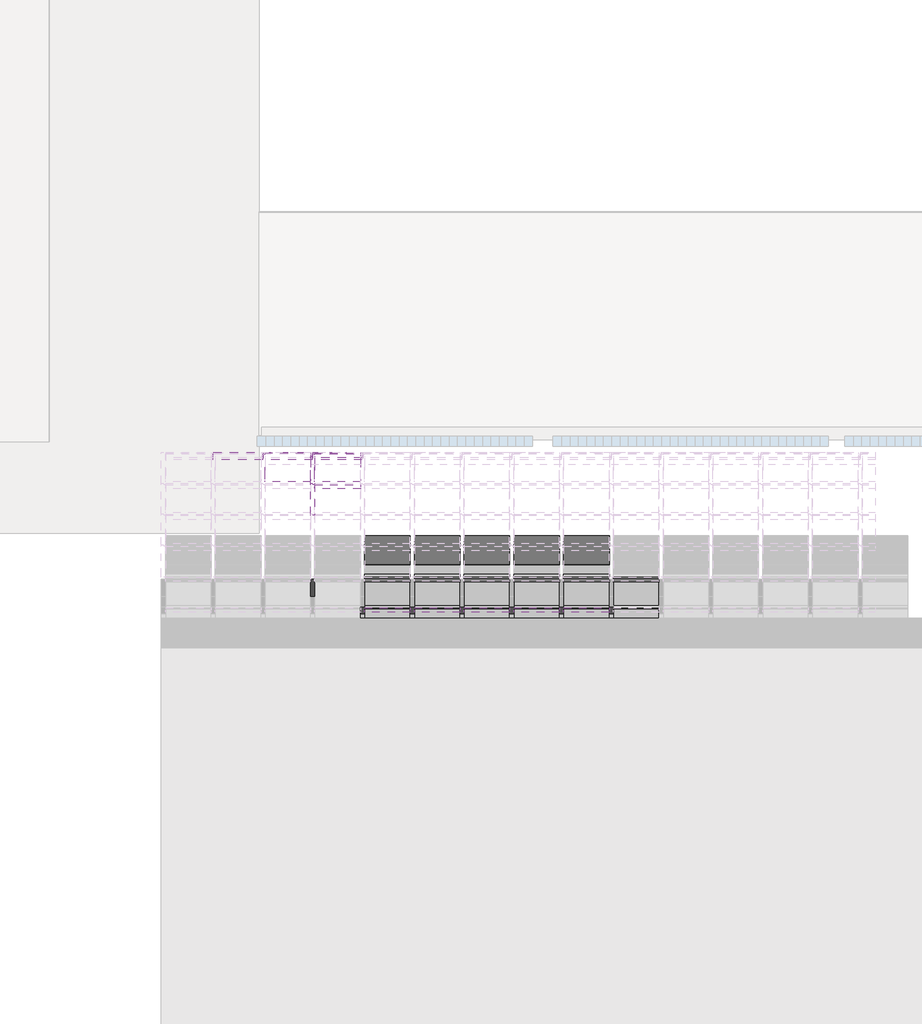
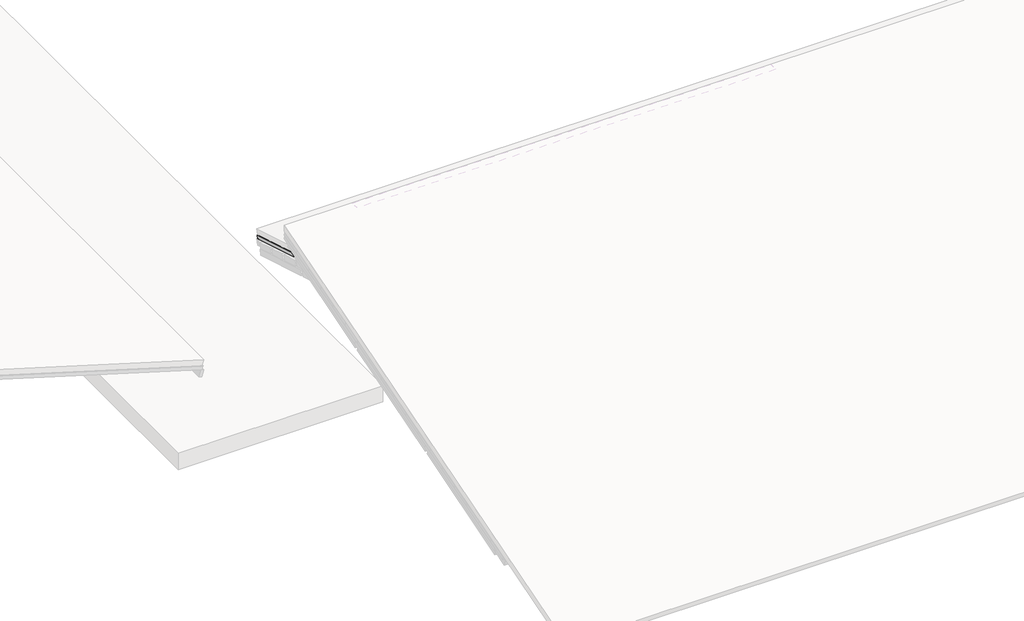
# One storey, part 13 of 57: 85 members, 37 plates.
"""IFC4 building model written with IfcOpenShell, lengths in millimetres."""

from ifc_helpers import new_model, si_unit, origin, place, context, project, spatial, transform, mapped, element, save
from components import rectangular_mullion_4c4137b9, rectangular_mullion_59984080, rectangular_mullion_2d2423ea, rectangular_mullion_3ac3718c, rectangular_mullion_caibro_df98490b, rectangular_mullion_caibro_e4384bba, rectangular_mullion_caibro_0993a3cf, rectangular_mullion_caibro_9bd7bc61, rectangular_mullion_caibro_650698a1, rectangular_mullion_caibro_334ef1ce, empty_system_panel_vazio_178faf58, empty_system_panel_vazio_2c78850d

model = new_model("IFC4")

# Units and contexts
model_context = context("Model", 3, world=origin())
ifc_project = project(units=[si_unit("LENGTHUNIT", "METRE", prefix="MILLI")], contexts=[model_context])

# Site, building, storey
site = spatial("IfcSite", under=ifc_project)
building = spatial("IfcBuilding", under=site)
storey = spatial("IfcBuildingStorey", under=building, Name="Nível 2", Elevation=4100.0)

# Members
placement = place(None, origin())
rectangular_mullion_shape = rectangular_mullion_4c4137b9(model_context)
element("IfcMember", 1, ObjectType="Rectangular Mullion : Ripa", at=placement, inside=storey, context=model_context, shape_type="MappedRepresentation", body=[
    mapped(rectangular_mullion_shape, transform((3542.8449214, 15566.1284427, 5819.8877114), x_axis=(0.0, 0.9578262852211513, 0.2873478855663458), y_axis=(0.0, 0.2873478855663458, -0.9578262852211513), z_axis=(-1.0, 0.0, 0.0))),
])
rectangular_mullion_2_shape = rectangular_mullion_59984080(model_context)
element("IfcMember", 2, ObjectType="Rectangular Mullion : Ripa", at=placement, inside=storey, context=model_context, shape_type="MappedRepresentation", body=[
    mapped(rectangular_mullion_2_shape, transform((4164.8996779, 12234.5331147, 4820.409113), x_axis=(0.0, 0.9578262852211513, 0.2873478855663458), y_axis=(0.0, 0.2873478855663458, -0.9578262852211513), z_axis=(-1.0, 0.0, 0.0))),
])
element("IfcMember", 3, ObjectType="Rectangular Mullion : Ripa", at=placement, inside=storey, context=model_context, shape_type="MappedRepresentation", body=[
    mapped(rectangular_mullion_2_shape, transform((4761.9544343, 12234.5331147, 4820.409113), x_axis=(0.0, 0.9578262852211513, 0.2873478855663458), y_axis=(0.0, 0.2873478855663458, -0.9578262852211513), z_axis=(-1.0, 0.0, 0.0))),
])
element("IfcMember", 4, ObjectType="Rectangular Mullion : Ripa", at=placement, inside=storey, context=model_context, shape_type="MappedRepresentation", body=[
    mapped(rectangular_mullion_2_shape, transform((5359.0091907, 12234.5331147, 4820.409113), x_axis=(0.0, 0.9578262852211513, 0.2873478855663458), y_axis=(0.0, 0.2873478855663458, -0.9578262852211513), z_axis=(-1.0, 0.0, 0.0))),
])
element("IfcMember", 5, ObjectType="Rectangular Mullion : Ripa", at=placement, inside=storey, context=model_context, shape_type="MappedRepresentation", body=[
    mapped(rectangular_mullion_2_shape, transform((5956.0639471, 12234.5331147, 4820.409113), x_axis=(0.0, 0.9578262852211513, 0.2873478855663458), y_axis=(0.0, 0.2873478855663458, -0.9578262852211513), z_axis=(-1.0, 0.0, 0.0))),
])
element("IfcMember", 6, ObjectType="Rectangular Mullion : Ripa", at=placement, inside=storey, context=model_context, shape_type="MappedRepresentation", body=[
    mapped(rectangular_mullion_2_shape, transform((6553.1187036, 12234.5331147, 4820.409113), x_axis=(0.0, 0.9578262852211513, 0.2873478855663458), y_axis=(0.0, 0.2873478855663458, -0.9578262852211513), z_axis=(-1.0, 0.0, 0.0))),
])
element("IfcMember", 7, ObjectType="Rectangular Mullion : Ripa", at=placement, inside=storey, context=model_context, shape_type="MappedRepresentation", body=[
    mapped(rectangular_mullion_2_shape, transform((7150.17346, 12234.5331147, 4820.409113), x_axis=(0.0, 0.9578262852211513, 0.2873478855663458), y_axis=(0.0, 0.2873478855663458, -0.9578262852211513), z_axis=(-1.0, 0.0, 0.0))),
])
element("IfcMember", 8, ObjectType="Rectangular Mullion : Ripa", at=placement, inside=storey, context=model_context, shape_type="MappedRepresentation", body=[
    mapped(rectangular_mullion_2_shape, transform((7747.2282164, 12234.5331147, 4820.409113), x_axis=(0.0, 0.9578262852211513, 0.2873478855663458), y_axis=(0.0, 0.2873478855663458, -0.9578262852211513), z_axis=(-1.0, 0.0, 0.0))),
])
element("IfcMember", 9, ObjectType="Rectangular Mullion : Ripa", at=placement, inside=storey, context=model_context, shape_type="MappedRepresentation", body=[
    mapped(rectangular_mullion_2_shape, transform((4164.8996779, 12604.7103734, 4931.4622906), x_axis=(0.0, 0.9578262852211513, 0.2873478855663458), y_axis=(0.0, 0.2873478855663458, -0.9578262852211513), z_axis=(-1.0, 0.0, 0.0))),
])
element("IfcMember", 10, ObjectType="Rectangular Mullion : Ripa", at=placement, inside=storey, context=model_context, shape_type="MappedRepresentation", body=[
    mapped(rectangular_mullion_2_shape, transform((4761.9544343, 12604.7103734, 4931.4622906), x_axis=(0.0, 0.9578262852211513, 0.2873478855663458), y_axis=(0.0, 0.2873478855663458, -0.9578262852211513), z_axis=(-1.0, 0.0, 0.0))),
])
element("IfcMember", 11, ObjectType="Rectangular Mullion : Ripa", at=placement, inside=storey, context=model_context, shape_type="MappedRepresentation", body=[
    mapped(rectangular_mullion_2_shape, transform((5359.0091907, 12604.7103734, 4931.4622906), x_axis=(0.0, 0.9578262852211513, 0.2873478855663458), y_axis=(0.0, 0.2873478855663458, -0.9578262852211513), z_axis=(-1.0, 0.0, 0.0))),
])
element("IfcMember", 12, ObjectType="Rectangular Mullion : Ripa", at=placement, inside=storey, context=model_context, shape_type="MappedRepresentation", body=[
    mapped(rectangular_mullion_2_shape, transform((5956.0639471, 12604.7103734, 4931.4622906), x_axis=(0.0, 0.9578262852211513, 0.2873478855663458), y_axis=(0.0, 0.2873478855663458, -0.9578262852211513), z_axis=(-1.0, 0.0, 0.0))),
])
element("IfcMember", 13, ObjectType="Rectangular Mullion : Ripa", at=placement, inside=storey, context=model_context, shape_type="MappedRepresentation", body=[
    mapped(rectangular_mullion_2_shape, transform((6553.1187036, 12604.7103734, 4931.4622906), x_axis=(0.0, 0.9578262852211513, 0.2873478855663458), y_axis=(0.0, 0.2873478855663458, -0.9578262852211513), z_axis=(-1.0, 0.0, 0.0))),
])
element("IfcMember", 14, ObjectType="Rectangular Mullion : Ripa", at=placement, inside=storey, context=model_context, shape_type="MappedRepresentation", body=[
    mapped(rectangular_mullion_2_shape, transform((7150.17346, 12604.7103734, 4931.4622906), x_axis=(0.0, 0.9578262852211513, 0.2873478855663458), y_axis=(0.0, 0.2873478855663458, -0.9578262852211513), z_axis=(-1.0, 0.0, 0.0))),
])
element("IfcMember", 15, ObjectType="Rectangular Mullion : Ripa", at=placement, inside=storey, context=model_context, shape_type="MappedRepresentation", body=[
    mapped(rectangular_mullion_2_shape, transform((7747.2282164, 12604.7103734, 4931.4622906), x_axis=(0.0, 0.9578262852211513, 0.2873478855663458), y_axis=(0.0, 0.2873478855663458, -0.9578262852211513), z_axis=(-1.0, 0.0, 0.0))),
])
element("IfcMember", 16, ObjectType="Rectangular Mullion : Ripa", at=placement, inside=storey, context=model_context, shape_type="MappedRepresentation", body=[
    mapped(rectangular_mullion_2_shape, transform((4164.8996779, 12974.8876321, 5042.5154682), x_axis=(0.0, 0.9578262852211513, 0.2873478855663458), y_axis=(0.0, 0.2873478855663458, -0.9578262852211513), z_axis=(-1.0, 0.0, 0.0))),
])
element("IfcMember", 17, ObjectType="Rectangular Mullion : Ripa", at=placement, inside=storey, context=model_context, shape_type="MappedRepresentation", body=[
    mapped(rectangular_mullion_2_shape, transform((4761.9544343, 12974.8876321, 5042.5154682), x_axis=(0.0, 0.9578262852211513, 0.2873478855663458), y_axis=(0.0, 0.2873478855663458, -0.9578262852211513), z_axis=(-1.0, 0.0, 0.0))),
])
element("IfcMember", 18, ObjectType="Rectangular Mullion : Ripa", at=placement, inside=storey, context=model_context, shape_type="MappedRepresentation", body=[
    mapped(rectangular_mullion_2_shape, transform((5359.0091907, 12974.8876321, 5042.5154682), x_axis=(0.0, 0.9578262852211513, 0.2873478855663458), y_axis=(0.0, 0.2873478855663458, -0.9578262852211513), z_axis=(-1.0, 0.0, 0.0))),
])
element("IfcMember", 19, ObjectType="Rectangular Mullion : Ripa", at=placement, inside=storey, context=model_context, shape_type="MappedRepresentation", body=[
    mapped(rectangular_mullion_2_shape, transform((5956.0639471, 12974.8876321, 5042.5154682), x_axis=(0.0, 0.9578262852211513, 0.2873478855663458), y_axis=(0.0, 0.2873478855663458, -0.9578262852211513), z_axis=(-1.0, 0.0, 0.0))),
])
element("IfcMember", 20, ObjectType="Rectangular Mullion : Ripa", at=placement, inside=storey, context=model_context, shape_type="MappedRepresentation", body=[
    mapped(rectangular_mullion_2_shape, transform((6553.1187036, 12974.8876321, 5042.5154682), x_axis=(0.0, 0.9578262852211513, 0.2873478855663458), y_axis=(0.0, 0.2873478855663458, -0.9578262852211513), z_axis=(-1.0, 0.0, 0.0))),
])
element("IfcMember", 21, ObjectType="Rectangular Mullion : Ripa", at=placement, inside=storey, context=model_context, shape_type="MappedRepresentation", body=[
    mapped(rectangular_mullion_2_shape, transform((7150.17346, 12974.8876321, 5042.5154682), x_axis=(0.0, 0.9578262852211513, 0.2873478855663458), y_axis=(0.0, 0.2873478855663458, -0.9578262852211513), z_axis=(-1.0, 0.0, 0.0))),
])
element("IfcMember", 22, ObjectType="Rectangular Mullion : Ripa", at=placement, inside=storey, context=model_context, shape_type="MappedRepresentation", body=[
    mapped(rectangular_mullion_2_shape, transform((7747.2282164, 12974.8876321, 5042.5154682), x_axis=(0.0, 0.9578262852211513, 0.2873478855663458), y_axis=(0.0, 0.2873478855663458, -0.9578262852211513), z_axis=(-1.0, 0.0, 0.0))),
])
element("IfcMember", 23, ObjectType="Rectangular Mullion : Ripa", at=placement, inside=storey, context=model_context, shape_type="MappedRepresentation", body=[
    mapped(rectangular_mullion_2_shape, transform((4164.8996779, 13345.0648907, 5153.5686458), x_axis=(0.0, 0.9578262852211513, 0.2873478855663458), y_axis=(0.0, 0.2873478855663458, -0.9578262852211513), z_axis=(-1.0, 0.0, 0.0))),
])
element("IfcMember", 24, ObjectType="Rectangular Mullion : Ripa", at=placement, inside=storey, context=model_context, shape_type="MappedRepresentation", body=[
    mapped(rectangular_mullion_2_shape, transform((4761.9544343, 13345.0648907, 5153.5686458), x_axis=(0.0, 0.9578262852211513, 0.2873478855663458), y_axis=(0.0, 0.2873478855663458, -0.9578262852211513), z_axis=(-1.0, 0.0, 0.0))),
])
element("IfcMember", 25, ObjectType="Rectangular Mullion : Ripa", at=placement, inside=storey, context=model_context, shape_type="MappedRepresentation", body=[
    mapped(rectangular_mullion_2_shape, transform((5359.0091907, 13345.0648907, 5153.5686458), x_axis=(0.0, 0.9578262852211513, 0.2873478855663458), y_axis=(0.0, 0.2873478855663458, -0.9578262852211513), z_axis=(-1.0, 0.0, 0.0))),
])
element("IfcMember", 26, ObjectType="Rectangular Mullion : Ripa", at=placement, inside=storey, context=model_context, shape_type="MappedRepresentation", body=[
    mapped(rectangular_mullion_2_shape, transform((5956.0639471, 13345.0648907, 5153.5686458), x_axis=(0.0, 0.9578262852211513, 0.2873478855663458), y_axis=(0.0, 0.2873478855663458, -0.9578262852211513), z_axis=(-1.0, 0.0, 0.0))),
])
element("IfcMember", 27, ObjectType="Rectangular Mullion : Ripa", at=placement, inside=storey, context=model_context, shape_type="MappedRepresentation", body=[
    mapped(rectangular_mullion_2_shape, transform((6553.1187036, 13345.0648907, 5153.5686458), x_axis=(0.0, 0.9578262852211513, 0.2873478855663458), y_axis=(0.0, 0.2873478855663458, -0.9578262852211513), z_axis=(-1.0, 0.0, 0.0))),
])
element("IfcMember", 28, ObjectType="Rectangular Mullion : Ripa", at=placement, inside=storey, context=model_context, shape_type="MappedRepresentation", body=[
    mapped(rectangular_mullion_2_shape, transform((4164.8996779, 13715.2421494, 5264.6218234), x_axis=(0.0, 0.9578262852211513, 0.2873478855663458), y_axis=(0.0, 0.2873478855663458, -0.9578262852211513), z_axis=(-1.0, 0.0, 0.0))),
])
element("IfcMember", 29, ObjectType="Rectangular Mullion : Ripa", at=placement, inside=storey, context=model_context, shape_type="MappedRepresentation", body=[
    mapped(rectangular_mullion_2_shape, transform((4761.9544343, 13715.2421494, 5264.6218234), x_axis=(0.0, 0.9578262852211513, 0.2873478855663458), y_axis=(0.0, 0.2873478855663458, -0.9578262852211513), z_axis=(-1.0, 0.0, 0.0))),
])
element("IfcMember", 30, ObjectType="Rectangular Mullion : Ripa", at=placement, inside=storey, context=model_context, shape_type="MappedRepresentation", body=[
    mapped(rectangular_mullion_2_shape, transform((5359.0091907, 13715.2421494, 5264.6218234), x_axis=(0.0, 0.9578262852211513, 0.2873478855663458), y_axis=(0.0, 0.2873478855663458, -0.9578262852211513), z_axis=(-1.0, 0.0, 0.0))),
])
element("IfcMember", 31, ObjectType="Rectangular Mullion : Ripa", at=placement, inside=storey, context=model_context, shape_type="MappedRepresentation", body=[
    mapped(rectangular_mullion_2_shape, transform((5956.0639471, 13715.2421494, 5264.6218234), x_axis=(0.0, 0.9578262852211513, 0.2873478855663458), y_axis=(0.0, 0.2873478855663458, -0.9578262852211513), z_axis=(-1.0, 0.0, 0.0))),
])
element("IfcMember", 32, ObjectType="Rectangular Mullion : Ripa", at=placement, inside=storey, context=model_context, shape_type="MappedRepresentation", body=[
    mapped(rectangular_mullion_2_shape, transform((6553.1187036, 13715.2421494, 5264.6218234), x_axis=(0.0, 0.9578262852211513, 0.2873478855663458), y_axis=(0.0, 0.2873478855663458, -0.9578262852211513), z_axis=(-1.0, 0.0, 0.0))),
])
element("IfcMember", 33, ObjectType="Rectangular Mullion : Ripa", at=placement, inside=storey, context=model_context, shape_type="MappedRepresentation", body=[
    mapped(rectangular_mullion_2_shape, transform((3567.8449214, 15195.9511841, 5708.8345338), x_axis=(0.0, 0.9578262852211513, 0.2873478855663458), y_axis=(0.0, 0.2873478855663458, -0.9578262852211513), z_axis=(-1.0, 0.0, 0.0))),
])
rectangular_mullion_3_shape = rectangular_mullion_2d2423ea(model_context)
element("IfcMember", 34, ObjectType="Rectangular Mullion : Terça", at=placement, inside=storey, context=model_context, shape_type="MappedRepresentation", body=[
    mapped(rectangular_mullion_3_shape, transform((4164.8996779, 13411.2689826, 5110.7880343), x_axis=(0.0, 0.9578262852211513, 0.2873478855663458), y_axis=(0.0, 0.2873478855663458, -0.9578262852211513), z_axis=(-1.0, 0.0, 0.0))),
])
element("IfcMember", 35, ObjectType="Rectangular Mullion : Terça", at=placement, inside=storey, context=model_context, shape_type="MappedRepresentation", body=[
    mapped(rectangular_mullion_3_shape, transform((4761.9544343, 13411.2689826, 5110.7880343), x_axis=(0.0, 0.9578262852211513, 0.2873478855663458), y_axis=(0.0, 0.2873478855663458, -0.9578262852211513), z_axis=(-1.0, 0.0, 0.0))),
])
element("IfcMember", 36, ObjectType="Rectangular Mullion : Terça", at=placement, inside=storey, context=model_context, shape_type="MappedRepresentation", body=[
    mapped(rectangular_mullion_3_shape, transform((5359.0091907, 13411.2689826, 5110.7880343), x_axis=(0.0, 0.9578262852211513, 0.2873478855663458), y_axis=(0.0, 0.2873478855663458, -0.9578262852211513), z_axis=(-1.0, 0.0, 0.0))),
])
element("IfcMember", 37, ObjectType="Rectangular Mullion : Terça", at=placement, inside=storey, context=model_context, shape_type="MappedRepresentation", body=[
    mapped(rectangular_mullion_3_shape, transform((5956.0639471, 13411.2689826, 5110.7880343), x_axis=(0.0, 0.9578262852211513, 0.2873478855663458), y_axis=(0.0, 0.2873478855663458, -0.9578262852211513), z_axis=(-1.0, 0.0, 0.0))),
])
element("IfcMember", 38, ObjectType="Rectangular Mullion : Terça", at=placement, inside=storey, context=model_context, shape_type="MappedRepresentation", body=[
    mapped(rectangular_mullion_3_shape, transform((6553.1187036, 13411.2689826, 5110.7880343), x_axis=(0.0, 0.9578262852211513, 0.2873478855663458), y_axis=(0.0, 0.2873478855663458, -0.9578262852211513), z_axis=(-1.0, 0.0, 0.0))),
])
rectangular_mullion_4_shape = rectangular_mullion_3ac3718c(model_context)
element("IfcMember", 39, ObjectType="Rectangular Mullion : Terça", at=placement, inside=storey, context=model_context, shape_type="MappedRepresentation", body=[
    mapped(rectangular_mullion_4_shape, transform((2348.7354086, 15566.1284427, 5757.2458723), x_axis=(0.0, 0.9578262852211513, 0.2873478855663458), y_axis=(0.0, 0.2873478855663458, -0.9578262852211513), z_axis=(-1.0, 0.0, 0.0))),
])
element("IfcMember", 40, ObjectType="Rectangular Mullion : Terça", at=placement, inside=storey, context=model_context, shape_type="MappedRepresentation", body=[
    mapped(rectangular_mullion_4_shape, transform((2945.790165, 15566.1284427, 5757.2458723), x_axis=(0.0, 0.9578262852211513, 0.2873478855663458), y_axis=(0.0, 0.2873478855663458, -0.9578262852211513), z_axis=(-1.0, 0.0, 0.0))),
])
element("IfcMember", 41, ObjectType="Rectangular Mullion : Terça", at=placement, inside=storey, context=model_context, shape_type="MappedRepresentation", body=[
    mapped(rectangular_mullion_4_shape, transform((3542.8449214, 15566.1284427, 5757.2458723), x_axis=(0.0, 0.9578262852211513, 0.2873478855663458), y_axis=(0.0, 0.2873478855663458, -0.9578262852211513), z_axis=(-1.0, 0.0, 0.0))),
])
rectangular_mullion_caibro_shape = rectangular_mullion_caibro_df98490b(model_context)
element("IfcMember", 42, ObjectType="Rectangular Mullion : Caibro", at=placement, inside=storey, context=model_context, shape_type="MappedRepresentation", body=[
    mapped(rectangular_mullion_caibro_shape, transform((3542.8449214, 15518.2371285, 5805.5203171), x_axis=(1.0, 0.0, 0.0), y_axis=(0.0, 0.28734788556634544, -0.9578262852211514), z_axis=(0.0, 0.9578262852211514, 0.28734788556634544))),
])
rectangular_mullion_caibro_2_shape = rectangular_mullion_caibro_e4384bba(model_context)
element("IfcMember", 43, ObjectType="Rectangular Mullion : Caibro", at=placement, inside=storey, context=model_context, shape_type="MappedRepresentation", body=[
    mapped(rectangular_mullion_caibro_2_shape, transform((3542.8449214, 15195.9511841, 5708.8345338), x_axis=(1.0, 0.0, 0.0), y_axis=(0.0, 0.28734788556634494, -0.9578262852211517), z_axis=(0.0, 0.9578262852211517, 0.28734788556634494))),
])
element("IfcMember", 44, ObjectType="Rectangular Mullion : Caibro", at=placement, inside=storey, context=model_context, shape_type="MappedRepresentation", body=[
    mapped(rectangular_mullion_caibro_2_shape, transform((4139.8996779, 12234.5331147, 4820.409113), x_axis=(1.0, 0.0, 0.0), y_axis=(0.0, 0.2873478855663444, -0.9578262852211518), z_axis=(0.0, 0.9578262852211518, 0.2873478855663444))),
])
element("IfcMember", 45, ObjectType="Rectangular Mullion : Caibro", at=placement, inside=storey, context=model_context, shape_type="MappedRepresentation", body=[
    mapped(rectangular_mullion_caibro_2_shape, transform((4139.8996779, 12604.7103734, 4931.4622906), x_axis=(1.0, 0.0, 0.0), y_axis=(0.0, 0.2873478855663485, -0.9578262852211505), z_axis=(0.0, 0.9578262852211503, 0.28734788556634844))),
])
element("IfcMember", 46, ObjectType="Rectangular Mullion : Caibro", at=placement, inside=storey, context=model_context, shape_type="MappedRepresentation", body=[
    mapped(rectangular_mullion_caibro_2_shape, transform((4139.8996779, 12974.8876321, 5042.5154682), x_axis=(1.0, 0.0, 0.0), y_axis=(0.0, 0.2873478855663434, -0.957826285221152), z_axis=(0.0, 0.957826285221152, 0.2873478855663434))),
])
element("IfcMember", 47, ObjectType="Rectangular Mullion : Caibro", at=placement, inside=storey, context=model_context, shape_type="MappedRepresentation", body=[
    mapped(rectangular_mullion_caibro_2_shape, transform((4139.8996779, 13345.0648907, 5153.5686458), x_axis=(1.0, 0.0, 0.0), y_axis=(0.0, 0.28734788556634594, -0.9578262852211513), z_axis=(0.0, 0.9578262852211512, 0.2873478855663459))),
])
element("IfcMember", 48, ObjectType="Rectangular Mullion : Caibro", at=placement, inside=storey, context=model_context, shape_type="MappedRepresentation", body=[
    mapped(rectangular_mullion_caibro_2_shape, transform((4139.8996779, 13715.2421494, 5264.6218234), x_axis=(1.0, 0.0, 0.0), y_axis=(0.0, 0.28734788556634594, -0.9578262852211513), z_axis=(0.0, 0.9578262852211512, 0.2873478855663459))),
])
element("IfcMember", 49, ObjectType="Rectangular Mullion : Caibro", at=placement, inside=storey, context=model_context, shape_type="MappedRepresentation", body=[
    mapped(rectangular_mullion_caibro_2_shape, transform((4736.9544343, 12234.5331147, 4820.409113), x_axis=(1.0, 0.0, 0.0), y_axis=(0.0, 0.2873478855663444, -0.9578262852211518), z_axis=(0.0, 0.9578262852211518, 0.2873478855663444))),
])
element("IfcMember", 50, ObjectType="Rectangular Mullion : Caibro", at=placement, inside=storey, context=model_context, shape_type="MappedRepresentation", body=[
    mapped(rectangular_mullion_caibro_2_shape, transform((4736.9544343, 12604.7103734, 4931.4622906), x_axis=(1.0, 0.0, 0.0), y_axis=(0.0, 0.2873478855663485, -0.9578262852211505), z_axis=(0.0, 0.9578262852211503, 0.28734788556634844))),
])
element("IfcMember", 51, ObjectType="Rectangular Mullion : Caibro", at=placement, inside=storey, context=model_context, shape_type="MappedRepresentation", body=[
    mapped(rectangular_mullion_caibro_2_shape, transform((4736.9544343, 12974.8876321, 5042.5154682), x_axis=(1.0, 0.0, 0.0), y_axis=(0.0, 0.2873478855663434, -0.957826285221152), z_axis=(0.0, 0.957826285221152, 0.2873478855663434))),
])
element("IfcMember", 52, ObjectType="Rectangular Mullion : Caibro", at=placement, inside=storey, context=model_context, shape_type="MappedRepresentation", body=[
    mapped(rectangular_mullion_caibro_2_shape, transform((4736.9544343, 13345.0648907, 5153.5686458), x_axis=(1.0, 0.0, 0.0), y_axis=(0.0, 0.28734788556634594, -0.9578262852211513), z_axis=(0.0, 0.9578262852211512, 0.2873478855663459))),
])
element("IfcMember", 53, ObjectType="Rectangular Mullion : Caibro", at=placement, inside=storey, context=model_context, shape_type="MappedRepresentation", body=[
    mapped(rectangular_mullion_caibro_2_shape, transform((4736.9544343, 13715.2421494, 5264.6218234), x_axis=(1.0, 0.0, 0.0), y_axis=(0.0, 0.28734788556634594, -0.9578262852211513), z_axis=(0.0, 0.9578262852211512, 0.2873478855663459))),
])
element("IfcMember", 54, ObjectType="Rectangular Mullion : Caibro", at=placement, inside=storey, context=model_context, shape_type="MappedRepresentation", body=[
    mapped(rectangular_mullion_caibro_2_shape, transform((5334.0091907, 12234.5331147, 4820.409113), x_axis=(1.0, 0.0, 0.0), y_axis=(0.0, 0.2873478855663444, -0.9578262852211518), z_axis=(0.0, 0.9578262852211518, 0.2873478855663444))),
])
element("IfcMember", 55, ObjectType="Rectangular Mullion : Caibro", at=placement, inside=storey, context=model_context, shape_type="MappedRepresentation", body=[
    mapped(rectangular_mullion_caibro_2_shape, transform((5334.0091907, 12604.7103734, 4931.4622906), x_axis=(1.0, 0.0, 0.0), y_axis=(0.0, 0.2873478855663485, -0.9578262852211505), z_axis=(0.0, 0.9578262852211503, 0.28734788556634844))),
])
element("IfcMember", 56, ObjectType="Rectangular Mullion : Caibro", at=placement, inside=storey, context=model_context, shape_type="MappedRepresentation", body=[
    mapped(rectangular_mullion_caibro_2_shape, transform((5334.0091907, 12974.8876321, 5042.5154682), x_axis=(1.0, 0.0, 0.0), y_axis=(0.0, 0.2873478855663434, -0.957826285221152), z_axis=(0.0, 0.957826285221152, 0.2873478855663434))),
])
element("IfcMember", 57, ObjectType="Rectangular Mullion : Caibro", at=placement, inside=storey, context=model_context, shape_type="MappedRepresentation", body=[
    mapped(rectangular_mullion_caibro_2_shape, transform((5334.0091907, 13345.0648907, 5153.5686458), x_axis=(1.0, 0.0, 0.0), y_axis=(0.0, 0.28734788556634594, -0.9578262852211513), z_axis=(0.0, 0.9578262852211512, 0.2873478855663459))),
])
element("IfcMember", 58, ObjectType="Rectangular Mullion : Caibro", at=placement, inside=storey, context=model_context, shape_type="MappedRepresentation", body=[
    mapped(rectangular_mullion_caibro_2_shape, transform((5334.0091907, 13715.2421494, 5264.6218234), x_axis=(1.0, 0.0, 0.0), y_axis=(0.0, 0.28734788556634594, -0.9578262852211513), z_axis=(0.0, 0.9578262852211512, 0.2873478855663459))),
])
element("IfcMember", 59, ObjectType="Rectangular Mullion : Caibro", at=placement, inside=storey, context=model_context, shape_type="MappedRepresentation", body=[
    mapped(rectangular_mullion_caibro_2_shape, transform((5931.0639471, 12234.5331147, 4820.409113), x_axis=(1.0, 0.0, 0.0), y_axis=(0.0, 0.2873478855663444, -0.9578262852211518), z_axis=(0.0, 0.9578262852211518, 0.2873478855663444))),
])
element("IfcMember", 60, ObjectType="Rectangular Mullion : Caibro", at=placement, inside=storey, context=model_context, shape_type="MappedRepresentation", body=[
    mapped(rectangular_mullion_caibro_2_shape, transform((5931.0639471, 12604.7103734, 4931.4622906), x_axis=(1.0, 0.0, 0.0), y_axis=(0.0, 0.2873478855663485, -0.9578262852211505), z_axis=(0.0, 0.9578262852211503, 0.28734788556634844))),
])
element("IfcMember", 61, ObjectType="Rectangular Mullion : Caibro", at=placement, inside=storey, context=model_context, shape_type="MappedRepresentation", body=[
    mapped(rectangular_mullion_caibro_2_shape, transform((5931.0639471, 12974.8876321, 5042.5154682), x_axis=(1.0, 0.0, 0.0), y_axis=(0.0, 0.2873478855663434, -0.957826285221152), z_axis=(0.0, 0.957826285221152, 0.2873478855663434))),
])
element("IfcMember", 62, ObjectType="Rectangular Mullion : Caibro", at=placement, inside=storey, context=model_context, shape_type="MappedRepresentation", body=[
    mapped(rectangular_mullion_caibro_2_shape, transform((5931.0639471, 13345.0648907, 5153.5686458), x_axis=(1.0, 0.0, 0.0), y_axis=(0.0, 0.28734788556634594, -0.9578262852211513), z_axis=(0.0, 0.9578262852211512, 0.2873478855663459))),
])
element("IfcMember", 63, ObjectType="Rectangular Mullion : Caibro", at=placement, inside=storey, context=model_context, shape_type="MappedRepresentation", body=[
    mapped(rectangular_mullion_caibro_2_shape, transform((5931.0639471, 13715.2421494, 5264.6218234), x_axis=(1.0, 0.0, 0.0), y_axis=(0.0, 0.28734788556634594, -0.9578262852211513), z_axis=(0.0, 0.9578262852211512, 0.2873478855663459))),
])
element("IfcMember", 64, ObjectType="Rectangular Mullion : Caibro", at=placement, inside=storey, context=model_context, shape_type="MappedRepresentation", body=[
    mapped(rectangular_mullion_caibro_2_shape, transform((6528.1187036, 12234.5331147, 4820.409113), x_axis=(1.0, 0.0, 0.0), y_axis=(0.0, 0.2873478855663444, -0.9578262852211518), z_axis=(0.0, 0.9578262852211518, 0.2873478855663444))),
])
element("IfcMember", 65, ObjectType="Rectangular Mullion : Caibro", at=placement, inside=storey, context=model_context, shape_type="MappedRepresentation", body=[
    mapped(rectangular_mullion_caibro_2_shape, transform((6528.1187036, 12604.7103734, 4931.4622906), x_axis=(1.0, 0.0, 0.0), y_axis=(0.0, 0.2873478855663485, -0.9578262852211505), z_axis=(0.0, 0.9578262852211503, 0.28734788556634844))),
])
element("IfcMember", 66, ObjectType="Rectangular Mullion : Caibro", at=placement, inside=storey, context=model_context, shape_type="MappedRepresentation", body=[
    mapped(rectangular_mullion_caibro_2_shape, transform((6528.1187036, 12974.8876321, 5042.5154682), x_axis=(1.0, 0.0, 0.0), y_axis=(0.0, 0.2873478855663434, -0.957826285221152), z_axis=(0.0, 0.957826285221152, 0.2873478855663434))),
])
element("IfcMember", 67, ObjectType="Rectangular Mullion : Caibro", at=placement, inside=storey, context=model_context, shape_type="MappedRepresentation", body=[
    mapped(rectangular_mullion_caibro_2_shape, transform((6528.1187036, 13345.0648907, 5153.5686458), x_axis=(1.0, 0.0, 0.0), y_axis=(0.0, 0.28734788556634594, -0.9578262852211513), z_axis=(0.0, 0.9578262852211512, 0.2873478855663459))),
])
element("IfcMember", 68, ObjectType="Rectangular Mullion : Caibro", at=placement, inside=storey, context=model_context, shape_type="MappedRepresentation", body=[
    mapped(rectangular_mullion_caibro_2_shape, transform((6528.1187036, 13715.2421494, 5264.6218234), x_axis=(1.0, 0.0, 0.0), y_axis=(0.0, 0.28734788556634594, -0.9578262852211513), z_axis=(0.0, 0.9578262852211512, 0.2873478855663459))),
])
element("IfcMember", 69, ObjectType="Rectangular Mullion : Caibro", at=placement, inside=storey, context=model_context, shape_type="MappedRepresentation", body=[
    mapped(rectangular_mullion_caibro_2_shape, transform((7125.17346, 12234.5331147, 4820.409113), x_axis=(1.0, 0.0, 0.0), y_axis=(0.0, 0.2873478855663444, -0.9578262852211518), z_axis=(0.0, 0.9578262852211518, 0.2873478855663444))),
])
element("IfcMember", 70, ObjectType="Rectangular Mullion : Caibro", at=placement, inside=storey, context=model_context, shape_type="MappedRepresentation", body=[
    mapped(rectangular_mullion_caibro_2_shape, transform((7125.17346, 12604.7103734, 4931.4622906), x_axis=(1.0, 0.0, 0.0), y_axis=(0.0, 0.2873478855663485, -0.9578262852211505), z_axis=(0.0, 0.9578262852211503, 0.28734788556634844))),
])
element("IfcMember", 71, ObjectType="Rectangular Mullion : Caibro", at=placement, inside=storey, context=model_context, shape_type="MappedRepresentation", body=[
    mapped(rectangular_mullion_caibro_2_shape, transform((7125.17346, 12974.8876321, 5042.5154682), x_axis=(1.0, 0.0, 0.0), y_axis=(0.0, 0.2873478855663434, -0.957826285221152), z_axis=(0.0, 0.957826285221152, 0.2873478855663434))),
])
element("IfcMember", 72, ObjectType="Rectangular Mullion : Caibro", at=placement, inside=storey, context=model_context, shape_type="MappedRepresentation", body=[
    mapped(rectangular_mullion_caibro_2_shape, transform((7125.17346, 13345.0648907, 5153.5686458), x_axis=(1.0, 0.0, 0.0), y_axis=(0.0, 0.28734788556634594, -0.9578262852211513), z_axis=(0.0, 0.9578262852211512, 0.2873478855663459))),
])
element("IfcMember", 73, ObjectType="Rectangular Mullion : Caibro", at=placement, inside=storey, context=model_context, shape_type="MappedRepresentation", body=[
    mapped(rectangular_mullion_caibro_2_shape, transform((7125.17346, 13715.2421494, 5264.6218234), x_axis=(1.0, 0.0, 0.0), y_axis=(0.0, 0.28734788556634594, -0.9578262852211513), z_axis=(0.0, 0.9578262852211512, 0.2873478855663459))),
])
element("IfcMember", 74, ObjectType="Rectangular Mullion : Caibro", at=placement, inside=storey, context=model_context, shape_type="MappedRepresentation", body=[
    mapped(rectangular_mullion_caibro_2_shape, transform((7722.2282164, 12234.5331147, 4820.409113), x_axis=(1.0, 0.0, 0.0), y_axis=(0.0, 0.2873478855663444, -0.9578262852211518), z_axis=(0.0, 0.9578262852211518, 0.2873478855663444))),
])
element("IfcMember", 75, ObjectType="Rectangular Mullion : Caibro", at=placement, inside=storey, context=model_context, shape_type="MappedRepresentation", body=[
    mapped(rectangular_mullion_caibro_2_shape, transform((7722.2282164, 12604.7103734, 4931.4622906), x_axis=(1.0, 0.0, 0.0), y_axis=(0.0, 0.28734788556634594, -0.9578262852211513), z_axis=(0.0, 0.9578262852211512, 0.2873478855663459))),
])
element("IfcMember", 76, ObjectType="Rectangular Mullion : Caibro", at=placement, inside=storey, context=model_context, shape_type="MappedRepresentation", body=[
    mapped(rectangular_mullion_caibro_2_shape, transform((7722.2282164, 12974.8876321, 5042.5154682), x_axis=(1.0, 0.0, 0.0), y_axis=(0.0, 0.28734788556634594, -0.9578262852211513), z_axis=(0.0, 0.9578262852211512, 0.2873478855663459))),
])
element("IfcMember", 77, ObjectType="Rectangular Mullion : Caibro", at=placement, inside=storey, context=model_context, shape_type="MappedRepresentation", body=[
    mapped(rectangular_mullion_caibro_2_shape, transform((7722.2282164, 13345.0648907, 5153.5686458), x_axis=(1.0, 0.0, 0.0), y_axis=(0.0, 0.28734788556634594, -0.9578262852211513), z_axis=(0.0, 0.9578262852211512, 0.2873478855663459))),
])
rectangular_mullion_caibro_3_shape = rectangular_mullion_caibro_0993a3cf(model_context)
element("IfcMember", 78, ObjectType="Rectangular Mullion : Caibro", at=placement, inside=storey, context=model_context, shape_type="MappedRepresentation", body=[
    mapped(rectangular_mullion_caibro_3_shape, transform((3542.8449214, 15508.6588656, 5740.0049992), x_axis=(1.0, 0.0, 0.0), y_axis=(0.0, 0.28734788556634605, -0.9578262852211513), z_axis=(0.0, 0.9578262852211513, 0.28734788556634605))),
])
rectangular_mullion_caibro_4_shape = rectangular_mullion_caibro_9bd7bc61(model_context)
element("IfcMember", 79, ObjectType="Rectangular Mullion : Caibro", at=placement, inside=storey, context=model_context, shape_type="MappedRepresentation", body=[
    mapped(rectangular_mullion_caibro_4_shape, transform((4139.8996779, 13411.2689826, 5110.7880343), x_axis=(1.0, 0.0, 0.0), y_axis=(0.0, 0.2873478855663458, -0.9578262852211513), z_axis=(0.0, 0.9578262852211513, 0.2873478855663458))),
])
element("IfcMember", 80, ObjectType="Rectangular Mullion : Caibro", at=placement, inside=storey, context=model_context, shape_type="MappedRepresentation", body=[
    mapped(rectangular_mullion_caibro_4_shape, transform((4736.9544343, 13411.2689826, 5110.7880343), x_axis=(1.0, 0.0, 0.0), y_axis=(0.0, 0.2873478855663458, -0.9578262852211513), z_axis=(0.0, 0.9578262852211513, 0.2873478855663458))),
])
element("IfcMember", 81, ObjectType="Rectangular Mullion : Caibro", at=placement, inside=storey, context=model_context, shape_type="MappedRepresentation", body=[
    mapped(rectangular_mullion_caibro_4_shape, transform((5334.0091907, 13411.2689826, 5110.7880343), x_axis=(1.0, 0.0, 0.0), y_axis=(0.0, 0.2873478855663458, -0.9578262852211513), z_axis=(0.0, 0.9578262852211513, 0.2873478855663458))),
])
element("IfcMember", 82, ObjectType="Rectangular Mullion : Caibro", at=placement, inside=storey, context=model_context, shape_type="MappedRepresentation", body=[
    mapped(rectangular_mullion_caibro_4_shape, transform((5931.0639471, 13411.2689826, 5110.7880343), x_axis=(1.0, 0.0, 0.0), y_axis=(0.0, 0.2873478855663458, -0.9578262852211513), z_axis=(0.0, 0.9578262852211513, 0.2873478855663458))),
])
element("IfcMember", 83, ObjectType="Rectangular Mullion : Caibro", at=placement, inside=storey, context=model_context, shape_type="MappedRepresentation", body=[
    mapped(rectangular_mullion_caibro_4_shape, transform((6528.1187036, 13411.2689826, 5110.7880343), x_axis=(1.0, 0.0, 0.0), y_axis=(0.0, 0.2873478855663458, -0.9578262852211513), z_axis=(0.0, 0.9578262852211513, 0.2873478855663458))),
])
rectangular_mullion_caibro_5_shape = rectangular_mullion_caibro_650698a1(model_context)
element("IfcMember", 84, ObjectType="Rectangular Mullion : Caibro", at=placement, inside=storey, context=model_context, shape_type="MappedRepresentation", body=[
    mapped(rectangular_mullion_caibro_5_shape, transform((3523.8770544, 15772.0058221, 4410.7541277), x_axis=(-1.0, 0.0, 0.0), y_axis=(0.0, -0.28734788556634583, -0.9578262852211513), z_axis=(0.0, -0.9578262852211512, 0.2873478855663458))),
])
rectangular_mullion_caibro_6_shape = rectangular_mullion_caibro_334ef1ce(model_context)
element("IfcMember", 85, ObjectType="Rectangular Mullion : Caibro", at=placement, inside=storey, context=model_context, shape_type="MappedRepresentation", body=[
    mapped(rectangular_mullion_caibro_6_shape, transform((2901.5285525, 15772.0058221, 4410.7541277), x_axis=(-1.0, 0.0, 0.0), y_axis=(0.0, -0.28734788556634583, -0.9578262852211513), z_axis=(0.0, -0.9578262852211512, 0.2873478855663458))),
])

# Plates
empty_system_panel_vazio_shape = empty_system_panel_vazio_178faf58(model_context)
element("IfcPlate", 86, ObjectType="Empty System Panel : Vazio", at=placement, inside=storey, context=model_context, shape_type="MappedRepresentation", body=[
    mapped(empty_system_panel_vazio_shape, transform((4438.4270561, 12234.5331147, 4820.409113), x_axis=(1.0, 0.0, 0.0), y_axis=(0.0, 0.2873478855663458, -0.9578262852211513), z_axis=(0.0, 0.9578262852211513, 0.2873478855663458))),
])
element("IfcPlate", 87, ObjectType="Empty System Panel : Vazio", at=placement, inside=storey, context=model_context, shape_type="MappedRepresentation", body=[
    mapped(empty_system_panel_vazio_shape, transform((5035.4818125, 12234.5331147, 4820.409113), x_axis=(1.0, 0.0, 0.0), y_axis=(0.0, 0.2873478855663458, -0.9578262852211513), z_axis=(0.0, 0.9578262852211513, 0.2873478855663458))),
])
element("IfcPlate", 88, ObjectType="Empty System Panel : Vazio", at=placement, inside=storey, context=model_context, shape_type="MappedRepresentation", body=[
    mapped(empty_system_panel_vazio_shape, transform((5632.5365689, 12234.5331147, 4820.409113), x_axis=(1.0, 0.0, 0.0), y_axis=(0.0, 0.2873478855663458, -0.9578262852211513), z_axis=(0.0, 0.9578262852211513, 0.2873478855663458))),
])
element("IfcPlate", 89, ObjectType="Empty System Panel : Vazio", at=placement, inside=storey, context=model_context, shape_type="MappedRepresentation", body=[
    mapped(empty_system_panel_vazio_shape, transform((6229.5913253, 12234.5331147, 4820.409113), x_axis=(1.0, 0.0, 0.0), y_axis=(0.0, 0.2873478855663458, -0.9578262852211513), z_axis=(0.0, 0.9578262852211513, 0.2873478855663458))),
])
element("IfcPlate", 90, ObjectType="Empty System Panel : Vazio", at=placement, inside=storey, context=model_context, shape_type="MappedRepresentation", body=[
    mapped(empty_system_panel_vazio_shape, transform((6826.6460818, 12234.5331147, 4820.409113), x_axis=(1.0, 0.0, 0.0), y_axis=(0.0, 0.2873478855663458, -0.9578262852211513), z_axis=(0.0, 0.9578262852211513, 0.2873478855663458))),
])
element("IfcPlate", 91, ObjectType="Empty System Panel : Vazio", at=placement, inside=storey, context=model_context, shape_type="MappedRepresentation", body=[
    mapped(empty_system_panel_vazio_shape, transform((7423.7008382, 12234.5331147, 4820.409113), x_axis=(1.0, 0.0, 0.0), y_axis=(0.0, 0.2873478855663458, -0.9578262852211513), z_axis=(0.0, 0.9578262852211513, 0.2873478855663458))),
])
element("IfcPlate", 92, ObjectType="Empty System Panel : Vazio", at=placement, inside=storey, context=model_context, shape_type="MappedRepresentation", body=[
    mapped(empty_system_panel_vazio_shape, transform((4438.4270561, 12604.7103734, 4931.4622906), x_axis=(1.0, 0.0, 0.0), y_axis=(0.0, 0.2873478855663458, -0.9578262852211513), z_axis=(0.0, 0.9578262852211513, 0.2873478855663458))),
])
element("IfcPlate", 93, ObjectType="Empty System Panel : Vazio", at=placement, inside=storey, context=model_context, shape_type="MappedRepresentation", body=[
    mapped(empty_system_panel_vazio_shape, transform((5035.4818125, 12604.7103734, 4931.4622906), x_axis=(1.0, 0.0, 0.0), y_axis=(0.0, 0.2873478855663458, -0.9578262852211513), z_axis=(0.0, 0.9578262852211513, 0.2873478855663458))),
])
element("IfcPlate", 94, ObjectType="Empty System Panel : Vazio", at=placement, inside=storey, context=model_context, shape_type="MappedRepresentation", body=[
    mapped(empty_system_panel_vazio_shape, transform((5632.5365689, 12604.7103734, 4931.4622906), x_axis=(1.0, 0.0, 0.0), y_axis=(0.0, 0.2873478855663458, -0.9578262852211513), z_axis=(0.0, 0.9578262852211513, 0.2873478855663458))),
])
element("IfcPlate", 95, ObjectType="Empty System Panel : Vazio", at=placement, inside=storey, context=model_context, shape_type="MappedRepresentation", body=[
    mapped(empty_system_panel_vazio_shape, transform((6229.5913253, 12604.7103734, 4931.4622906), x_axis=(1.0, 0.0, 0.0), y_axis=(0.0, 0.2873478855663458, -0.9578262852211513), z_axis=(0.0, 0.9578262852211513, 0.2873478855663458))),
])
element("IfcPlate", 96, ObjectType="Empty System Panel : Vazio", at=placement, inside=storey, context=model_context, shape_type="MappedRepresentation", body=[
    mapped(empty_system_panel_vazio_shape, transform((6826.6460818, 12604.7103734, 4931.4622906), x_axis=(1.0, 0.0, 0.0), y_axis=(0.0, 0.2873478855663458, -0.9578262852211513), z_axis=(0.0, 0.9578262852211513, 0.2873478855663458))),
])
element("IfcPlate", 97, ObjectType="Empty System Panel : Vazio", at=placement, inside=storey, context=model_context, shape_type="MappedRepresentation", body=[
    mapped(empty_system_panel_vazio_shape, transform((7423.7008382, 12604.7103734, 4931.4622906), x_axis=(1.0, 0.0, 0.0), y_axis=(0.0, 0.2873478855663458, -0.9578262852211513), z_axis=(0.0, 0.9578262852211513, 0.2873478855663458))),
])
element("IfcPlate", 98, ObjectType="Empty System Panel : Vazio", at=placement, inside=storey, context=model_context, shape_type="MappedRepresentation", body=[
    mapped(empty_system_panel_vazio_shape, transform((4438.4270561, 12974.8876321, 5042.5154682), x_axis=(1.0, 0.0, 0.0), y_axis=(0.0, 0.2873478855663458, -0.9578262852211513), z_axis=(0.0, 0.9578262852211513, 0.2873478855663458))),
])
element("IfcPlate", 99, ObjectType="Empty System Panel : Vazio", at=placement, inside=storey, context=model_context, shape_type="MappedRepresentation", body=[
    mapped(empty_system_panel_vazio_shape, transform((5035.4818125, 12974.8876321, 5042.5154682), x_axis=(1.0, 0.0, 0.0), y_axis=(0.0, 0.2873478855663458, -0.9578262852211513), z_axis=(0.0, 0.9578262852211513, 0.2873478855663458))),
])
element("IfcPlate", 100, ObjectType="Empty System Panel : Vazio", at=placement, inside=storey, context=model_context, shape_type="MappedRepresentation", body=[
    mapped(empty_system_panel_vazio_shape, transform((5632.5365689, 12974.8876321, 5042.5154682), x_axis=(1.0, 0.0, 0.0), y_axis=(0.0, 0.2873478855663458, -0.9578262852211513), z_axis=(0.0, 0.9578262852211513, 0.2873478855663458))),
])
element("IfcPlate", 101, ObjectType="Empty System Panel : Vazio", at=placement, inside=storey, context=model_context, shape_type="MappedRepresentation", body=[
    mapped(empty_system_panel_vazio_shape, transform((6229.5913253, 12974.8876321, 5042.5154682), x_axis=(1.0, 0.0, 0.0), y_axis=(0.0, 0.2873478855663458, -0.9578262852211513), z_axis=(0.0, 0.9578262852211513, 0.2873478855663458))),
])
element("IfcPlate", 102, ObjectType="Empty System Panel : Vazio", at=placement, inside=storey, context=model_context, shape_type="MappedRepresentation", body=[
    mapped(empty_system_panel_vazio_shape, transform((6826.6460818, 12974.8876321, 5042.5154682), x_axis=(1.0, 0.0, 0.0), y_axis=(0.0, 0.2873478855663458, -0.9578262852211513), z_axis=(0.0, 0.9578262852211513, 0.2873478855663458))),
])
element("IfcPlate", 103, ObjectType="Empty System Panel : Vazio", at=placement, inside=storey, context=model_context, shape_type="MappedRepresentation", body=[
    mapped(empty_system_panel_vazio_shape, transform((7423.7008382, 12974.8876321, 5042.5154682), x_axis=(1.0, 0.0, 0.0), y_axis=(0.0, 0.2873478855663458, -0.9578262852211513), z_axis=(0.0, 0.9578262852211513, 0.2873478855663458))),
])
element("IfcPlate", 104, ObjectType="Empty System Panel : Vazio", at=placement, inside=storey, context=model_context, shape_type="MappedRepresentation", body=[
    mapped(empty_system_panel_vazio_shape, transform((4438.4270561, 13345.0648907, 5153.5686458), x_axis=(1.0, 0.0, 0.0), y_axis=(0.0, 0.2873478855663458, -0.9578262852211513), z_axis=(0.0, 0.9578262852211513, 0.2873478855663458))),
])
element("IfcPlate", 105, ObjectType="Empty System Panel : Vazio", at=placement, inside=storey, context=model_context, shape_type="MappedRepresentation", body=[
    mapped(empty_system_panel_vazio_shape, transform((5035.4818125, 13345.0648907, 5153.5686458), x_axis=(1.0, 0.0, 0.0), y_axis=(0.0, 0.2873478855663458, -0.9578262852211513), z_axis=(0.0, 0.9578262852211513, 0.2873478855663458))),
])
element("IfcPlate", 106, ObjectType="Empty System Panel : Vazio", at=placement, inside=storey, context=model_context, shape_type="MappedRepresentation", body=[
    mapped(empty_system_panel_vazio_shape, transform((5632.5365689, 13345.0648907, 5153.5686458), x_axis=(1.0, 0.0, 0.0), y_axis=(0.0, 0.2873478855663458, -0.9578262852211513), z_axis=(0.0, 0.9578262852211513, 0.2873478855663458))),
])
element("IfcPlate", 107, ObjectType="Empty System Panel : Vazio", at=placement, inside=storey, context=model_context, shape_type="MappedRepresentation", body=[
    mapped(empty_system_panel_vazio_shape, transform((6229.5913253, 13345.0648907, 5153.5686458), x_axis=(1.0, 0.0, 0.0), y_axis=(0.0, 0.2873478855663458, -0.9578262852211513), z_axis=(0.0, 0.9578262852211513, 0.2873478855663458))),
])
element("IfcPlate", 108, ObjectType="Empty System Panel : Vazio", at=placement, inside=storey, context=model_context, shape_type="MappedRepresentation", body=[
    mapped(empty_system_panel_vazio_shape, transform((6826.6460818, 13345.0648907, 5153.5686458), x_axis=(1.0, 0.0, 0.0), y_axis=(0.0, 0.2873478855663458, -0.9578262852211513), z_axis=(0.0, 0.9578262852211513, 0.2873478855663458))),
])
element("IfcPlate", 109, ObjectType="Empty System Panel : Vazio", at=placement, inside=storey, context=model_context, shape_type="MappedRepresentation", body=[
    mapped(empty_system_panel_vazio_shape, transform((7423.7008382, 13345.0648907, 5153.5686458), x_axis=(1.0, 0.0, 0.0), y_axis=(0.0, 0.2873478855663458, -0.9578262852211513), z_axis=(0.0, 0.9578262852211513, 0.2873478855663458))),
])
element("IfcPlate", 110, ObjectType="Empty System Panel : Vazio", at=placement, inside=storey, context=model_context, shape_type="MappedRepresentation", body=[
    mapped(empty_system_panel_vazio_shape, transform((4438.4270561, 13715.2421494, 5264.6218234), x_axis=(1.0, 0.0, 0.0), y_axis=(0.0, 0.2873478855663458, -0.9578262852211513), z_axis=(0.0, 0.9578262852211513, 0.2873478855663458))),
])
element("IfcPlate", 111, ObjectType="Empty System Panel : Vazio", at=placement, inside=storey, context=model_context, shape_type="MappedRepresentation", body=[
    mapped(empty_system_panel_vazio_shape, transform((5035.4818125, 13715.2421494, 5264.6218234), x_axis=(1.0, 0.0, 0.0), y_axis=(0.0, 0.2873478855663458, -0.9578262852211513), z_axis=(0.0, 0.9578262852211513, 0.2873478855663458))),
])
element("IfcPlate", 112, ObjectType="Empty System Panel : Vazio", at=placement, inside=storey, context=model_context, shape_type="MappedRepresentation", body=[
    mapped(empty_system_panel_vazio_shape, transform((5632.5365689, 13715.2421494, 5264.6218234), x_axis=(1.0, 0.0, 0.0), y_axis=(0.0, 0.2873478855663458, -0.9578262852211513), z_axis=(0.0, 0.9578262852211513, 0.2873478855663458))),
])
element("IfcPlate", 113, ObjectType="Empty System Panel : Vazio", at=placement, inside=storey, context=model_context, shape_type="MappedRepresentation", body=[
    mapped(empty_system_panel_vazio_shape, transform((6229.5913253, 13715.2421494, 5264.6218234), x_axis=(1.0, 0.0, 0.0), y_axis=(0.0, 0.2873478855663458, -0.9578262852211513), z_axis=(0.0, 0.9578262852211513, 0.2873478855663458))),
])
element("IfcPlate", 114, ObjectType="Empty System Panel : Vazio", at=placement, inside=storey, context=model_context, shape_type="MappedRepresentation", body=[
    mapped(empty_system_panel_vazio_shape, transform((6826.6460818, 13715.2421494, 5264.6218234), x_axis=(1.0, 0.0, 0.0), y_axis=(0.0, 0.2873478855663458, -0.9578262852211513), z_axis=(0.0, 0.9578262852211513, 0.2873478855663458))),
])
element("IfcPlate", 115, ObjectType="Empty System Panel : Vazio", at=placement, inside=storey, context=model_context, shape_type="MappedRepresentation", body=[
    mapped(empty_system_panel_vazio_shape, transform((7423.7008382, 13715.2421494, 5264.6218234), x_axis=(1.0, 0.0, 0.0), y_axis=(0.0, 0.2873478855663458, -0.9578262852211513), z_axis=(0.0, 0.9578262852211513, 0.2873478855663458))),
])
element("IfcPlate", 116, ObjectType="Empty System Panel : Vazio", at=placement, inside=storey, context=model_context, shape_type="MappedRepresentation", body=[
    mapped(empty_system_panel_vazio_shape, transform((3244.3175432, 15195.9511841, 5708.8345338), x_axis=(1.0, 0.0, 0.0), y_axis=(0.0, 0.2873478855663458, -0.9578262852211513), z_axis=(0.0, 0.9578262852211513, 0.2873478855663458))),
])
element("IfcPlate", 117, ObjectType="Empty System Panel : Vazio", at=placement, inside=storey, context=model_context, shape_type="MappedRepresentation", body=[
    mapped(empty_system_panel_vazio_shape, transform((3841.3722996, 15195.9511841, 5708.8345338), x_axis=(1.0, 0.0, 0.0), y_axis=(0.0, 0.2873478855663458, -0.9578262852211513), z_axis=(0.0, 0.9578262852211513, 0.2873478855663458))),
])
empty_system_panel_vazio_2_shape = empty_system_panel_vazio_2c78850d(model_context)
element("IfcPlate", 118, ObjectType="Empty System Panel : Vazio", at=placement, inside=storey, context=model_context, shape_type="MappedRepresentation", body=[
    mapped(empty_system_panel_vazio_2_shape, transform((4438.4270561, 13440.0037711, 5119.4084708), x_axis=(1.0, 0.0, 0.0), y_axis=(0.0, 0.2873478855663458, -0.9578262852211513), z_axis=(0.0, 0.9578262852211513, 0.2873478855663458))),
])
element("IfcPlate", 119, ObjectType="Empty System Panel : Vazio", at=placement, inside=storey, context=model_context, shape_type="MappedRepresentation", body=[
    mapped(empty_system_panel_vazio_2_shape, transform((5035.4818125, 13440.0037711, 5119.4084708), x_axis=(1.0, 0.0, 0.0), y_axis=(0.0, 0.2873478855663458, -0.9578262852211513), z_axis=(0.0, 0.9578262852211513, 0.2873478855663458))),
])
element("IfcPlate", 120, ObjectType="Empty System Panel : Vazio", at=placement, inside=storey, context=model_context, shape_type="MappedRepresentation", body=[
    mapped(empty_system_panel_vazio_2_shape, transform((5632.5365689, 13440.0037711, 5119.4084708), x_axis=(1.0, 0.0, 0.0), y_axis=(0.0, 0.2873478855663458, -0.9578262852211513), z_axis=(0.0, 0.9578262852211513, 0.2873478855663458))),
])
element("IfcPlate", 121, ObjectType="Empty System Panel : Vazio", at=placement, inside=storey, context=model_context, shape_type="MappedRepresentation", body=[
    mapped(empty_system_panel_vazio_2_shape, transform((6229.5913253, 13440.0037711, 5119.4084708), x_axis=(1.0, 0.0, 0.0), y_axis=(0.0, 0.2873478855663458, -0.9578262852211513), z_axis=(0.0, 0.9578262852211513, 0.2873478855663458))),
])
element("IfcPlate", 122, ObjectType="Empty System Panel : Vazio", at=placement, inside=storey, context=model_context, shape_type="MappedRepresentation", body=[
    mapped(empty_system_panel_vazio_2_shape, transform((6826.6460818, 13440.0037711, 5119.4084708), x_axis=(1.0, 0.0, 0.0), y_axis=(0.0, 0.2873478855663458, -0.9578262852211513), z_axis=(0.0, 0.9578262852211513, 0.2873478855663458))),
])

save(model, "model.ifc")
